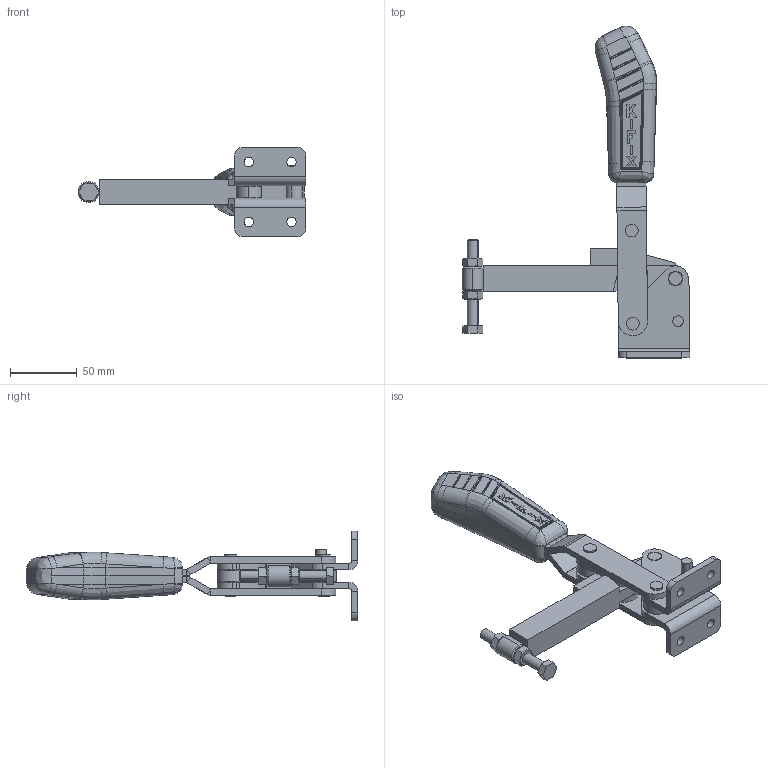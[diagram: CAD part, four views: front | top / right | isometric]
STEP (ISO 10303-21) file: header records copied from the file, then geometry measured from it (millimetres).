
FILE_DESCRIPTION (( 'STEP AP203' ), '1' );
FILE_NAME ('KF-616 D.STEP', '2014-08-01T13:50:09', ( 'Ricardo' ), ( '' ), 'SwSTEP 2.0', 'SolidWorks 2013', '' );
FILE_SCHEMA (( 'CONFIG_CONTROL_DESIGN' ));
Length unit declared in the file: millimetre
Products named in the file (16): 05.20006; 04.20003; 15.10107; 08.10076; 02.12118_Direita; 3670000105; 07.60003; 02.12118_Esquerda; 3670000086; 20.20004; KF-616 D; 03.15027_Montagem; 12.50020; 01.10174_Montagem; 11.50002; PSB-M8
Assembly tree (20 placements, depth 3):
  KF-616 D
    02.12118_Direita
    02.12118_Esquerda
    03.15027_Montagem
    01.10174_Montagem  x2
    08.10076  x2
    07.60003
    PSB-M8
      20.20004
      12.50020
      11.50002  x2
    05.20006  x2
    04.20003
    15.10107
    3670000105  x2
    3670000086
Bounding box: 170.91 x 249.15 x 67 mm (x, y, z)
Volume: 252242.8 mm3; surface area: 90795.9 mm2
Topology: 19 solids, 19 shells, 708 faces, 1743 edges, 1093 vertices
Faces by surface type: plane 252, cylinder 224, bspline 143, sphere 48, cone 38, torus 3
Entity records: 23783 total; most frequent: CARTESIAN_POINT 8571, ORIENTED_EDGE 3044, DIRECTION 2405, EDGE_CURVE 1522, VERTEX_POINT 959, AXIS2_PLACEMENT_3D 943, EDGE_LOOP 689, FACE_OUTER_BOUND 620
